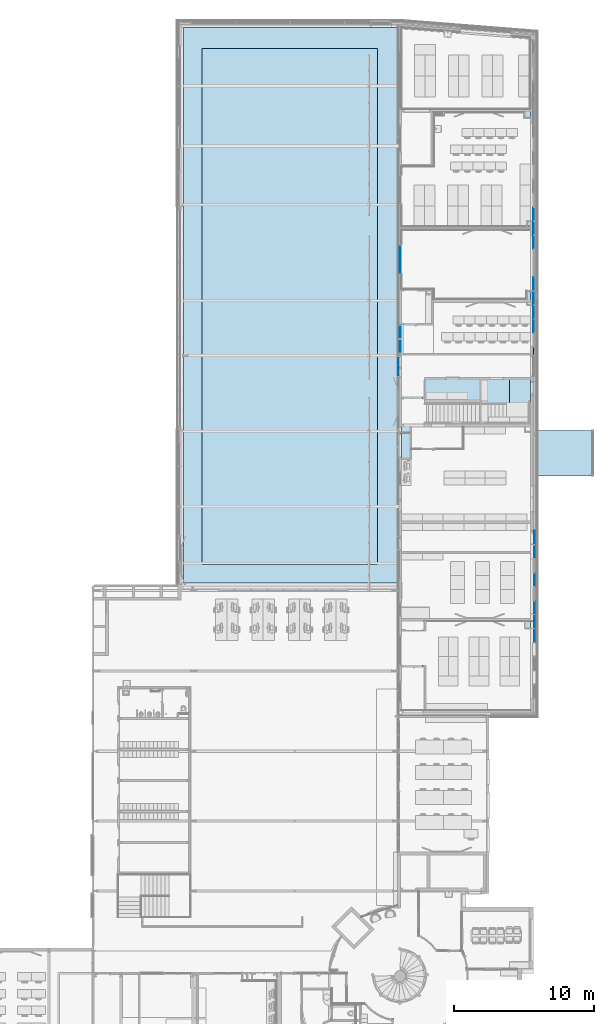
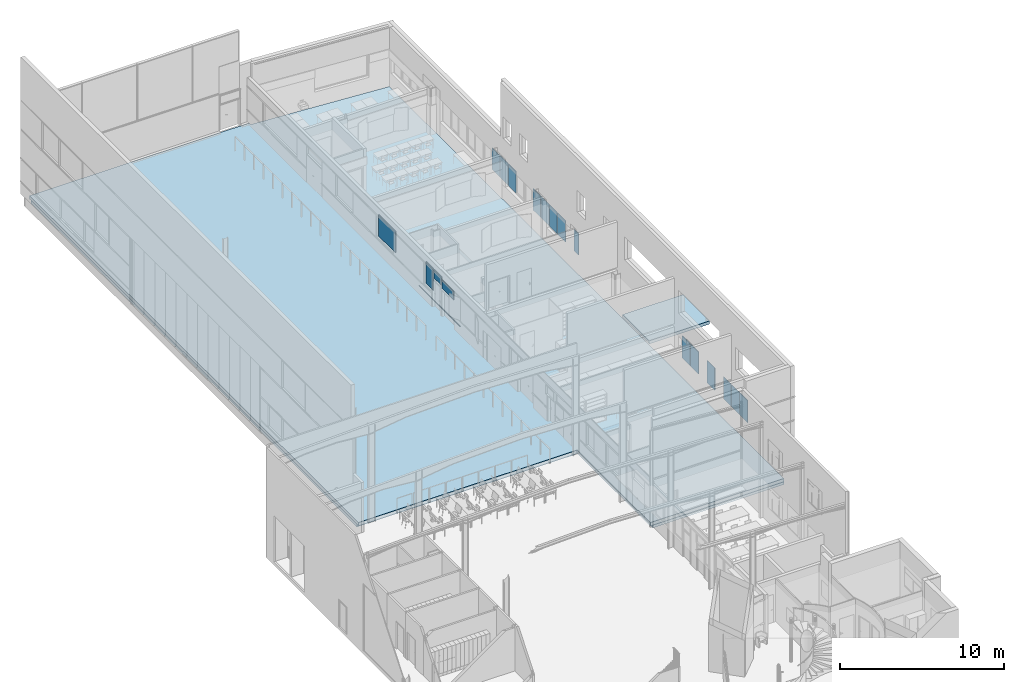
# One storey, part 30 of 137: 18 plates, 4 slabs, 3 openings, 6 elements without a shape of their own.
"""IFC2X3 building model written with IfcOpenShell, lengths in centimetres."""

from ifc_helpers import new_model, entity, si_unit, converted_unit, derived_unit, direction, frame, frame_2d, origin, origin_2d_with_axis, place, context, subcontext, project, spatial, polyline, rectangle, outline, extrude, source, transform, mapped, material, layer, layer_set, layer_usage, type_object, type_shapes, element, aggregate, save


model = new_model("IFC2X3")

# Units and contexts
model_context = context("Model", 3, precision=0.001, world=origin(), true_north=direction((6.12303176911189e-17, 1.0)))
body_context = subcontext(model_context, "Body", "Model", "MODEL_VIEW")
ifc_project = project(units=[si_unit("LENGTHUNIT", "METRE", prefix="CENTI"), si_unit("AREAUNIT", "SQUARE_METRE"), si_unit("VOLUMEUNIT", "CUBIC_METRE"), converted_unit("PLANEANGLEUNIT", "DEGREE", entity("IfcRatioMeasure", 0.0174532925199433), si_unit("PLANEANGLEUNIT", "RADIAN"), dimensions=[0, 0, 0, 0, 0, 0, 0]), si_unit("MASSUNIT", "GRAM", prefix="KILO"), si_unit("TIMEUNIT", "SECOND"), si_unit("FREQUENCYUNIT", "HERTZ"), si_unit("THERMODYNAMICTEMPERATUREUNIT", "DEGREE_CELSIUS"), derived_unit("THERMALTRANSMITTANCEUNIT", [(si_unit("MASSUNIT", "GRAM", prefix="KILO"), 1), (si_unit("THERMODYNAMICTEMPERATUREUNIT", "KELVIN"), -1), (si_unit("TIMEUNIT", "SECOND"), -3)]), derived_unit("VOLUMETRICFLOWRATEUNIT", [(si_unit("LENGTHUNIT", "METRE"), 3), (si_unit("TIMEUNIT", "SECOND"), -1)]), si_unit("ELECTRICCURRENTUNIT", "AMPERE"), si_unit("ELECTRICVOLTAGEUNIT", "VOLT"), si_unit("POWERUNIT", "WATT"), si_unit("FORCEUNIT", "NEWTON", prefix="KILO"), si_unit("ILLUMINANCEUNIT", "LUX"), si_unit("LUMINOUSFLUXUNIT", "LUMEN"), si_unit("LUMINOUSINTENSITYUNIT", "CANDELA"), derived_unit("USERDEFINED", [(si_unit("MASSUNIT", "GRAM", prefix="KILO"), -1), (si_unit("LENGTHUNIT", "METRE"), -2), (si_unit("TIMEUNIT", "SECOND"), 3), (si_unit("LUMINOUSFLUXUNIT", "LUMEN"), 1)]), derived_unit("LINEARVELOCITYUNIT", [(si_unit("LENGTHUNIT", "METRE"), 1), (si_unit("TIMEUNIT", "SECOND"), -1)]), si_unit("PRESSUREUNIT", "PASCAL"), derived_unit("USERDEFINED", [(si_unit("LENGTHUNIT", "METRE"), -2), (si_unit("MASSUNIT", "GRAM", prefix="KILO"), 1), (si_unit("TIMEUNIT", "SECOND"), -2)])], contexts=[model_context])

# Site, building, storey
site_placement = place(None, frame((8.62739174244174, -249.285249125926, 0.0)))
site = spatial("IfcSite", under=ifc_project, at=site_placement, Name="Default", CompositionType="ELEMENT")
building_placement = place(site_placement, origin())
building = spatial("IfcBuilding", under=site, at=building_placement, CompositionType="ELEMENT")
storey_placement = place(building_placement, origin())
storey = spatial("IfcBuildingStorey", under=building, at=storey_placement, Name="RDC", CompositionType="ELEMENT", Elevation=-8.82465566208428e-11)

# Curtain wall, plates
curtain_wall_type = type_object("IfcCurtainWallType", Name="Mur-rideau:Simple panneau", PredefinedType="NOTDEFINED")
curtain_wall_1_placement = place(storey_placement, origin())
curtain_wall_1 = element("IfcCurtainWall", 1, at=curtain_wall_1_placement, inside=storey, type_object=curtain_wall_type, Name="Mur-rideau:Simple panneau", ObjectType="Mur-rideau:Simple panneau")
ifc_material_1 = material(Name="Verre")
plate_type_1 = type_object("IfcPlateType", Name="Vitré", PredefinedType="CURTAIN_PANEL", material=ifc_material_1)
shared_shape_1 = source(origin(), body_context, "Body", "SweptSolid", [
    extrude(rectangle(XDim=4.0, YDim=94.9999999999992, at=origin_2d_with_axis()), frame((0.0, -2.49999999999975, 0.0), z_axis=(0.0, 0.0, 1.0), x_axis=(0.0, 1.0, 0.0)), (0.0, 0.0, 1.0), 160.0),
])
type_shapes(plate_type_1, [shared_shape_1])
plate_1_placement = place(curtain_wall_1_placement, frame((4003.90482781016, 6204.9802081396, 115.0), z_axis=(0.0, 0.0, 1.0), x_axis=(0.0, -1.0, 0.0)))
plate_1 = element("IfcPlate", 2, at=plate_1_placement, type_object=plate_type_1, material=ifc_material_1, Name="Panneau système:Vitré", ObjectType="Vitré", context=body_context, shape_type="MappedRepresentation", body=[
    mapped(shared_shape_1, transform((0.0, 0.0, 0.0), scale=1.0)),
])
plate_2_placement = place(curtain_wall_1_placement, frame((4003.90482781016, 6004.9802081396, 115.0), z_axis=(0.0, 0.0, 1.0), x_axis=(0.0, -1.0, 0.0)))
plate_2 = element("IfcPlate", 3, at=plate_2_placement, type_object=plate_type_1, material=ifc_material_1, Name="Panneau système:Vitré", ObjectType="Vitré", context=body_context, shape_type="MappedRepresentation", body=[
    mapped(shared_shape_1, transform((0.0, 0.0, 0.0), scale=1.0)),
])
plate_3_placement = place(curtain_wall_1_placement, frame((4003.90482781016, 5704.9802081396, 115.0), z_axis=(0.0, 0.0, 1.0), x_axis=(0.0, -1.0, 0.0)))
plate_3 = element("IfcPlate", 4, at=plate_3_placement, type_object=plate_type_1, material=ifc_material_1, Name="Panneau système:Vitré", ObjectType="Vitré", context=body_context, shape_type="MappedRepresentation", body=[
    mapped(shared_shape_1, transform((0.0, 0.0, 0.0), scale=1.0)),
])
plate_4_placement = place(curtain_wall_1_placement, frame((4003.90482781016, 5504.9802081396, 115.0), z_axis=(0.0, 0.0, 1.0), x_axis=(0.0, -1.0, 0.0)))
plate_4 = element("IfcPlate", 5, at=plate_4_placement, type_object=plate_type_1, material=ifc_material_1, Name="Panneau système:Vitré", ObjectType="Vitré", context=body_context, shape_type="MappedRepresentation", body=[
    mapped(shared_shape_1, transform((0.0, 0.0, 0.0), scale=1.0)),
])
plate_5_placement = place(curtain_wall_1_placement, frame((4003.90482781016, 5404.9802081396, 115.0), z_axis=(0.0, 0.0, 1.0), x_axis=(0.0, -1.0, 0.0)))
plate_5 = element("IfcPlate", 6, at=plate_5_placement, type_object=plate_type_1, material=ifc_material_1, Name="Panneau système:Vitré", ObjectType="Vitré", context=body_context, shape_type="MappedRepresentation", body=[
    mapped(shared_shape_1, transform((0.0, 0.0, 0.0), scale=1.0)),
])
ifc_material_2 = material(Name="Par défaut")
plate_type_2 = type_object("IfcPlateType", Name="Plein", PredefinedType="CURTAIN_PANEL", material=ifc_material_2)
shared_shape_2 = source(origin(), body_context, "Body", "SweptSolid", [
    extrude(rectangle(XDim=4.0, YDim=95.0000000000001, at=origin_2d_with_axis()), frame((0.0, -2.50000000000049, 0.0), z_axis=(0.0, 0.0, 1.0), x_axis=(0.0, 1.0, 0.0)), (0.0, 0.0, 1.0), 160.0),
])
type_shapes(plate_type_2, [shared_shape_2])
plate_6_placement = place(curtain_wall_1_placement, frame((4003.90482781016, 6104.9802081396, 115.0), z_axis=(0.0, 0.0, 1.0), x_axis=(0.0, -1.0, 0.0)))
plate_6 = element("IfcPlate", 7, at=plate_6_placement, type_object=plate_type_2, material=ifc_material_2, Name="Panneau système:Plein", ObjectType="Plein", context=body_context, shape_type="MappedRepresentation", body=[
    mapped(shared_shape_2, transform((0.0, 0.0, 0.0), scale=1.0)),
])
plate_7_placement = place(curtain_wall_1_placement, frame((4003.90482781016, 5604.9802081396, 115.0), z_axis=(0.0, 0.0, 1.0), x_axis=(0.0, -1.0, 0.0)))
plate_7 = element("IfcPlate", 8, at=plate_7_placement, type_object=plate_type_2, material=ifc_material_2, Name="Panneau système:Plein", ObjectType="Plein", context=body_context, shape_type="MappedRepresentation", body=[
    mapped(shared_shape_2, transform((0.0, 0.0, 0.0), scale=1.0)),
])
plate_type_3 = type_object("IfcPlateType", Name="Plein", PredefinedType="CURTAIN_PANEL", material=ifc_material_2)
shared_shape_3 = source(origin(), body_context, "Body", "SweptSolid", [
    extrude(rectangle(XDim=4.0, YDim=54.4999999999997, at=origin_2d_with_axis()), frame((0.0, -2.50000000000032, 0.0), z_axis=(0.0, 0.0, 1.0), x_axis=(0.0, 1.0, 0.0)), (0.0, 0.0, 1.0), 160.0),
])
type_shapes(plate_type_3, [shared_shape_3])
plate_8_placement = place(curtain_wall_1_placement, frame((4003.90482781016, 5225.2302081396, 115.0), z_axis=(0.0, 0.0, 1.0), x_axis=(0.0, -1.0, 0.0)))
plate_8 = element("IfcPlate", 9, at=plate_8_placement, type_object=plate_type_3, material=ifc_material_2, Name="Panneau système:Plein", ObjectType="Plein", context=body_context, shape_type="MappedRepresentation", body=[
    mapped(shared_shape_3, transform((0.0, 0.0, 0.0), scale=1.0)),
])
aggregate(curtain_wall_1, [plate_1, plate_6, plate_2, plate_3, plate_7, plate_4, plate_5, plate_8])

curtain_wall_2_placement = place(storey_placement, origin())
curtain_wall_2 = element("IfcCurtainWall", 10, at=curtain_wall_2_placement, inside=storey, type_object=curtain_wall_type, Name="Mur-rideau:Simple panneau", ObjectType="Mur-rideau:Simple panneau")
plate_type_4 = type_object("IfcPlateType", Name="Vitré", PredefinedType="CURTAIN_PANEL", material=ifc_material_1)
shared_shape_4 = source(origin(), body_context, "Body", "SweptSolid", [
    extrude(rectangle(XDim=4.0, YDim=96.9999999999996, at=origin_2d_with_axis()), frame((0.0, 2.49999999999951, 0.0), z_axis=(0.0, 0.0, 1.0), x_axis=(0.0, 1.0, 0.0)), (0.0, 0.0, 1.0), 165.000000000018),
])
type_shapes(plate_type_4, [shared_shape_4])
plate_9_placement = place(curtain_wall_2_placement, frame((4003.90482781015, 3890.68519336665, 110.0), z_axis=(0.0, 0.0, 1.0), x_axis=(0.0, -1.0, 0.0)))
plate_9 = element("IfcPlate", 11, at=plate_9_placement, type_object=plate_type_4, material=ifc_material_1, Name="Panneau système:Vitré", ObjectType="Vitré", context=body_context, shape_type="MappedRepresentation", body=[
    mapped(shared_shape_4, transform((0.0, 0.0, 0.0), scale=1.0)),
])
plate_type_5 = type_object("IfcPlateType", Name="Plein", PredefinedType="CURTAIN_PANEL", material=ifc_material_2)
shared_shape_5 = source(origin(), body_context, "Body", "SweptSolid", [
    extrude(rectangle(XDim=4.0, YDim=95.0000000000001, at=frame_2d((-4.44089209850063e-16, 0.0), x_axis=(1.0, 0.0))), frame((0.0, 2.49999999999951, 0.0), z_axis=(0.0, 0.0, 1.0), x_axis=(0.0, 1.0, 0.0)), (0.0, 0.0, 1.0), 165.000000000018),
])
type_shapes(plate_type_5, [shared_shape_5])
plate_10_placement = place(curtain_wall_2_placement, frame((4003.90482781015, 3789.68519336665, 110.0), z_axis=(0.0, 0.0, 1.0), x_axis=(0.0, -1.0, 0.0)))
plate_10 = element("IfcPlate", 12, at=plate_10_placement, type_object=plate_type_5, material=ifc_material_2, Name="Panneau système:Plein", ObjectType="Plein", context=body_context, shape_type="MappedRepresentation", body=[
    mapped(shared_shape_5, transform((0.0, 0.0, 0.0), scale=1.0)),
])
plate_11_placement = place(curtain_wall_2_placement, frame((4003.90482781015, 3289.68519336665, 110.0), z_axis=(0.0, 0.0, 1.0), x_axis=(0.0, -1.0, 0.0)))
plate_11 = element("IfcPlate", 13, at=plate_11_placement, type_object=plate_type_5, material=ifc_material_2, Name="Panneau système:Plein", ObjectType="Plein", context=body_context, shape_type="MappedRepresentation", body=[
    mapped(shared_shape_5, transform((0.0, 0.0, 0.0), scale=1.0)),
])
plate_type_6 = type_object("IfcPlateType", Name="Vitré", PredefinedType="CURTAIN_PANEL", material=ifc_material_1)
shared_shape_6 = source(origin(), body_context, "Body", "SweptSolid", [
    extrude(rectangle(XDim=4.0, YDim=95.0000000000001, at=frame_2d((-4.44089209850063e-16, 0.0), x_axis=(1.0, 0.0))), frame((0.0, 2.49999999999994, 0.0), z_axis=(0.0, 0.0, 1.0), x_axis=(0.0, 1.0, 0.0)), (0.0, 0.0, 1.0), 165.000000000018),
])
type_shapes(plate_type_6, [shared_shape_6])
plate_12_placement = place(curtain_wall_2_placement, frame((4003.90482781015, 3589.68519336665, 110.0), z_axis=(0.0, 0.0, 1.0), x_axis=(0.0, -1.0, 0.0)))
plate_12 = element("IfcPlate", 14, at=plate_12_placement, type_object=plate_type_6, material=ifc_material_1, Name="Panneau système:Vitré", ObjectType="Vitré", context=body_context, shape_type="MappedRepresentation", body=[
    mapped(shared_shape_6, transform((0.0, 0.0, 0.0), scale=1.0)),
])
plate_13_placement = place(curtain_wall_2_placement, frame((4003.90482781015, 3389.68519336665, 110.0), z_axis=(0.0, 0.0, 1.0), x_axis=(0.0, -1.0, 0.0)))
plate_13 = element("IfcPlate", 15, at=plate_13_placement, type_object=plate_type_6, material=ifc_material_1, Name="Panneau système:Vitré", ObjectType="Vitré", context=body_context, shape_type="MappedRepresentation", body=[
    mapped(shared_shape_6, transform((0.0, 0.0, 0.0), scale=1.0)),
])
plate_14_placement = place(curtain_wall_2_placement, frame((4003.90482781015, 3189.68519336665, 110.0), z_axis=(0.0, 0.0, 1.0), x_axis=(0.0, -1.0, 0.0)))
plate_14 = element("IfcPlate", 16, at=plate_14_placement, type_object=plate_type_6, material=ifc_material_1, Name="Panneau système:Vitré", ObjectType="Vitré", context=body_context, shape_type="MappedRepresentation", body=[
    mapped(shared_shape_6, transform((0.0, 0.0, 0.0), scale=1.0)),
])
aggregate(curtain_wall_2, [plate_9, plate_10, plate_12, plate_13, plate_11, plate_14])

# Curtain wall, plate
curtain_wall_3_placement = place(storey_placement, origin())
curtain_wall_3 = element("IfcCurtainWall", 17, at=curtain_wall_3_placement, inside=storey, type_object=curtain_wall_type, Name="Mur-rideau:Simple panneau", ObjectType="Mur-rideau:Simple panneau")
plate_type_7 = type_object("IfcPlateType", Name="Vitré", PredefinedType="CURTAIN_PANEL", material=ifc_material_1)
shared_shape_7 = source(origin(), body_context, "Body", "SweptSolid", [
    extrude(rectangle(XDim=4.0, YDim=205.0, at=origin_2d_with_axis()), frame((0.0, -2.50000000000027, 0.0), z_axis=(0.0, 0.0, 1.0), x_axis=(0.0, 1.0, 0.0)), (0.0, 0.0, 1.0), 160.0),
])
type_shapes(plate_type_7, [shared_shape_7])
plate_15_placement = place(curtain_wall_3_placement, frame((3043.9048277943, 5881.23020813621, 115.0), z_axis=(0.0, 0.0, 1.0), x_axis=(0.0, 1.0, 0.0)))
plate_15 = element("IfcPlate", 18, at=plate_15_placement, type_object=plate_type_7, material=ifc_material_1, Name="Panneau système:Vitré", ObjectType="Vitré", context=body_context, shape_type="MappedRepresentation", body=[
    mapped(shared_shape_7, transform((0.0, 0.0, 0.0), scale=1.0)),
])
aggregate(curtain_wall_3, [plate_15])

curtain_wall_4_placement = place(storey_placement, origin())
curtain_wall_4 = element("IfcCurtainWall", 19, at=curtain_wall_4_placement, inside=storey, type_object=curtain_wall_type, Name="Mur-rideau:Simple panneau", ObjectType="Mur-rideau:Simple panneau")
plate_type_8 = type_object("IfcPlateType", Name="Vitré", PredefinedType="CURTAIN_PANEL", material=ifc_material_1)
shared_shape_8 = source(origin(), body_context, "Body", "SweptSolid", [
    extrude(rectangle(XDim=4.0, YDim=89.9999999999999, at=origin_2d_with_axis()), frame((0.0, -2.50000000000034, 0.0), z_axis=(0.0, 0.0, 1.0), x_axis=(0.0, 1.0, 0.0)), (0.0, 0.0, 1.0), 160.0),
])
type_shapes(plate_type_8, [shared_shape_8])
plate_16_placement = place(curtain_wall_4_placement, frame((3043.9048277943, 5361.23020813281, 115.0), z_axis=(0.0, 0.0, 1.0), x_axis=(0.0, 1.0, 0.0)))
plate_16 = element("IfcPlate", 20, at=plate_16_placement, type_object=plate_type_8, material=ifc_material_1, Name="Panneau système:Vitré", ObjectType="Vitré", context=body_context, shape_type="MappedRepresentation", body=[
    mapped(shared_shape_8, transform((0.0, 0.0, 0.0), scale=1.0)),
])
aggregate(curtain_wall_4, [plate_16])

curtain_wall_5_placement = place(storey_placement, origin())
curtain_wall_5 = element("IfcCurtainWall", 21, at=curtain_wall_5_placement, inside=storey, type_object=curtain_wall_type, Name="Mur-rideau:Simple panneau", ObjectType="Mur-rideau:Simple panneau")
plate_type_9 = type_object("IfcPlateType", Name="Vitré", PredefinedType="CURTAIN_PANEL", material=ifc_material_1)
shared_shape_9 = source(origin(), body_context, "Body", "SweptSolid", [
    extrude(rectangle(XDim=4.0, YDim=140.999999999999, at=frame_2d((4.44089209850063e-16, 0.0), x_axis=(1.0, 0.0))), frame((0.0, 2.49999999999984, 0.0), z_axis=(0.0, 0.0, 1.0), x_axis=(0.0, 1.0, 0.0)), (0.0, 0.0, 1.0), 61.9999999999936),
])
type_shapes(plate_type_9, [shared_shape_9])
plate_17_placement = place(curtain_wall_5_placement, frame((3031.9048277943, 5115.73020813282, 213.0), z_axis=(0.0, 0.0, 1.0), x_axis=(0.0, -1.0, 0.0)))
plate_17 = element("IfcPlate", 22, at=plate_17_placement, type_object=plate_type_9, material=ifc_material_1, Name="Panneau système:Vitré", ObjectType="Vitré", context=body_context, shape_type="MappedRepresentation", body=[
    mapped(shared_shape_9, transform((0.0, 0.0, 0.0), scale=1.0)),
])
aggregate(curtain_wall_5, [plate_17])

curtain_wall_6_placement = place(storey_placement, origin())
curtain_wall_6 = element("IfcCurtainWall", 23, at=curtain_wall_6_placement, inside=storey, type_object=curtain_wall_type, Name="Mur-rideau:Simple panneau", ObjectType="Mur-rideau:Simple panneau")
plate_type_10 = type_object("IfcPlateType", Name="Vitré", PredefinedType="CURTAIN_PANEL", material=ifc_material_1)
shared_shape_10 = source(origin(), body_context, "Body", "SweptSolid", [
    extrude(rectangle(XDim=4.0, YDim=91.9999999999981, at=frame_2d((-4.44089209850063e-16, 0.0), x_axis=(1.0, 0.0))), frame((0.0, 2.5000000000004, 0.0), z_axis=(0.0, 0.0, 1.0), x_axis=(0.0, 1.0, 0.0)), (0.0, 0.0, 1.0), 61.9999999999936),
])
type_shapes(plate_type_10, [shared_shape_10])
plate_18_placement = place(curtain_wall_6_placement, frame((3043.9048277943, 5260.23020813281, 213.0), z_axis=(0.0, 0.0, 1.0), x_axis=(0.0, -1.0, 0.0)))
plate_18 = element("IfcPlate", 24, at=plate_18_placement, type_object=plate_type_10, material=ifc_material_1, Name="Panneau système:Vitré", ObjectType="Vitré", context=body_context, shape_type="MappedRepresentation", body=[
    mapped(shared_shape_10, transform((0.0, 0.0, 0.0), scale=1.0)),
])
aggregate(curtain_wall_6, [plate_18])

# Slab, opening
ifc_material_3 = material(Name="Béton, coulé sur place, gris")
ifc_layer_1 = layer(ifc_material_3, 25.0)
ifc_layer_set_1 = layer_set([ifc_layer_1], Name="Sol:Dalle en béton  PROJET - 250 mm")
ifc_layer_usage_1 = layer_usage(ifc_layer_set_1, "AXIS3", "POSITIVE", 0.0)
slab_1_placement = place(storey_placement, frame((1496.90482779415, 2654.98020806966, -25.0)))
slab_1 = element("IfcSlab", 25, at=slab_1_placement, inside=storey, material=ifc_layer_usage_1, Name="Sol:Dalle en béton  PROJET - 250 mm", ObjectType="Sol:Dalle en béton  PROJET - 250 mm", PredefinedType="FLOOR", context=body_context, shape_type="SweptSolid", body=[
    extrude(outline(polyline([(1241.0, 2453.49817167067), (-307.998043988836, 2453.49817167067), (-307.998043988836, 2435.10141649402), (-1241.0, 2361.32799449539), (-1241.0, -2453.49817167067), (-300.0, -2453.49817167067), (-300.0, -1561.49777722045), (1241.0, -1561.49777722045), (1241.0, 2453.49817167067)])), frame((1241.0, 2453.49817167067, 25.0), z_axis=(0.0, 0.0, -1.0), x_axis=(-1.0, 0.0, 0.0)), (0.0, 0.0, 1.0), 25.0),
])
opening_1_placement = place(storey_placement, frame((1496.90482779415, 2654.98020806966, -25.0)))
element("IfcOpeningElement", 26, at=opening_1_placement, cuts=slab_1, ObjectType="Opening", context=body_context, shape_type="SweptSolid", body=[
    extrude(rectangle(XDim=3.99999999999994, YDim=507.434738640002, at=frame_2d((-339.500000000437, 186.469197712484), x_axis=(-1.0, 0.0))), frame((1241.0, 2453.49817167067, 25.0), z_axis=(0.0, 0.0, -1.0), x_axis=(-1.0, 0.0, 0.0)), (0.0, 0.0, 1.0), 25.0),
])

# Slab
ifc_layer_2 = layer(ifc_material_3, 23.0)
ifc_layer_set_2 = layer_set([ifc_layer_2], Name="Sol:Dalle en béton  PROJET - 230 mm")
ifc_layer_usage_2 = layer_usage(ifc_layer_set_2, "AXIS3", "POSITIVE", 0.0)
slab_2_placement = place(storey_placement, origin())
element("IfcSlab", 27, at=slab_2_placement, inside=storey, material=ifc_layer_usage_2, Name="Sol:Dalle en béton  PROJET - 230 mm", ObjectType="Sol:Dalle en béton  PROJET - 230 mm", PredefinedType="FLOOR", context=body_context, shape_type="SweptSolid", body=[
    extrude(rectangle(XDim=324.000029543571, YDim=426.999999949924, at=frame_2d((-4.40536496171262e-13, 8.66862137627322e-13), x_axis=(1.0, 0.0))), frame((4212.4048277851, 4495.27520813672, 0.0), z_axis=(0.0, 0.0, -1.0), x_axis=(0.0, 1.0, 0.0)), (0.0, 0.0, 1.0), 23.0),
])

# Slab, opening
ifc_material_4 = material(Name="Maçonnerie - Isolant_MU")
ifc_layer_3 = layer(ifc_material_4, 20.0)
ifc_layer_set_3 = layer_set([ifc_layer_3], Name="Sol:Iso 20")
ifc_layer_usage_3 = layer_usage(ifc_layer_set_3, "AXIS3", "POSITIVE", 0.0)
slab_3_placement = place(storey_placement, frame((1496.90482779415, 3566.98060251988, -45.0)))
slab_3 = element("IfcSlab", 28, at=slab_3_placement, inside=storey, material=ifc_layer_usage_3, Name="Sol:Iso 20", ObjectType="Sol:Iso 20", PredefinedType="FLOOR", context=body_context, shape_type="SweptSolid", body=[
    extrude(rectangle(XDim=3974.99594889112, YDim=1537.00000000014, at=frame_2d((0.0, 0.0), x_axis=(0.0, 1.0))), frame((768.500000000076, 1987.49797444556, 20.0), z_axis=(0.0, 0.0, -1.0), x_axis=(-1.0, 0.0, 0.0)), (0.0, 0.0, 1.0), 20.0),
])
opening_2_placement = place(slab_3_placement, frame((758.500000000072, 1977.74797444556, 20.0)))
element("IfcOpeningElement", 29, at=opening_2_placement, cuts=slab_3, Name="Sol:Iso 20:2", ObjectType="Opening", context=body_context, shape_type="SweptSolid", body=[
    extrude(rectangle(XDim=1257.00000000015, YDim=3694.49594889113, at=origin_2d_with_axis()), frame((0.0, 0.0, 0.0), z_axis=(0.0, 0.0, -1.0), x_axis=(1.0, 0.0, 0.0)), (0.0, 0.0, 1.0), 20.0),
])

ifc_layer_usage_4 = layer_usage(ifc_layer_set_3, "AXIS3", "POSITIVE", 0.0)
slab_4_placement = place(storey_placement, frame((3053.90482779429, 2654.98020806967, -45.0)))
slab_4 = element("IfcSlab", 30, at=slab_4_placement, inside=storey, material=ifc_layer_usage_4, Name="Sol:Iso 20", ObjectType="Sol:Iso 20", PredefinedType="FLOOR", context=body_context, shape_type="SweptSolid", body=[
    extrude(outline(polyline([(-462.500000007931, -2443.98343264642), (462.500000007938, -2443.98343264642), (462.500000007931, 2443.98343264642), (-462.500000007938, 2370.84273351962), (-462.500000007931, -2443.98343264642)])), frame((462.500000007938, 2443.98343264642, 20.0), z_axis=(0.0, 0.0, -1.0), x_axis=(-1.0, 0.0, 0.0)), (0.0, 0.0, 1.0), 20.0),
])
opening_3_placement = place(slab_4_placement, frame((462.500000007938, 2425.46416467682, 20.0)))
element("IfcOpeningElement", 31, at=opening_3_placement, cuts=slab_4, Name="Sol:Iso 20:2", ObjectType="Opening", context=body_context, shape_type="SweptSolid", body=[
    extrude(outline(polyline([(-312.50000000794, -2275.46416467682), (312.500000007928, -2275.46416467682), (312.500000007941, 2300.17386032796), (-312.500000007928, 2250.75446902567), (-312.50000000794, -2275.46416467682)])), frame((0.0, 0.0, 0.0), z_axis=(0.0, 0.0, -1.0), x_axis=(-1.0, 0.0, 0.0)), (0.0, 0.0, 1.0), 20.0),
])

save(model, "model.ifc")
